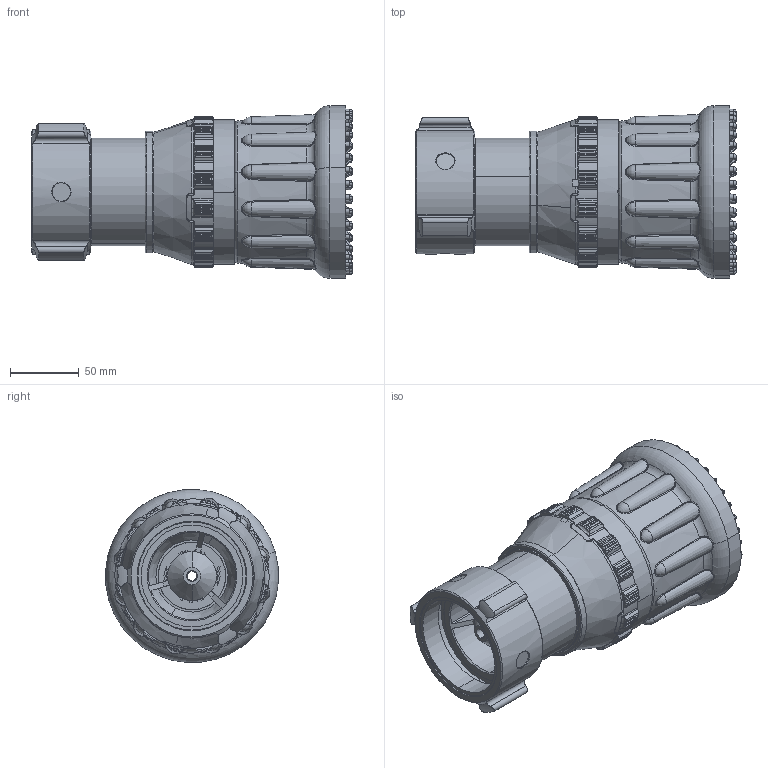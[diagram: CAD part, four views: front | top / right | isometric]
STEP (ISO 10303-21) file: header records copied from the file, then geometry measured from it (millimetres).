
FILE_DESCRIPTION (( 'STEP AP203' ), '1' );
FILE_NAME ('MD18A.STEP', '2014-10-15T15:06:49', ( '' ), ( '' ), 'SwSTEP 2.0', 'SolidWorks 2014', '' );
FILE_SCHEMA (( 'CONFIG_CONTROL_DESIGN' ));
Length unit declared in the file: inch
Products named in the file (1): MD18A
Bounding box: 233.37 x 125.72 x 125.72 mm (x, y, z)
Surface area: 184709.9 mm2 (no closed solid volume)
Topology: 0 solids, 26 shells, 1118 faces, 3684 edges, 2471 vertices
Faces by surface type: cylinder 539, plane 208, sphere 142, torus 105, bspline 78, cone 46
Entity records: 55744 total; most frequent: CARTESIAN_POINT 26279, ORIENTED_EDGE 6310, DIRECTION 5593, EDGE_CURVE 3540, VERTEX_POINT 2403, AXIS2_PLACEMENT_3D 2096, LINE 1401, VECTOR 1401
